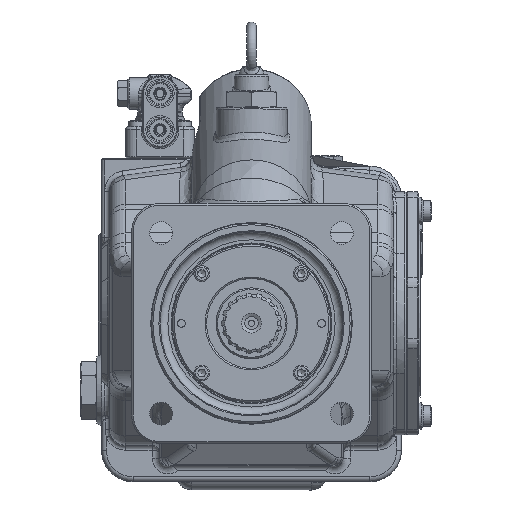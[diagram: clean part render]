
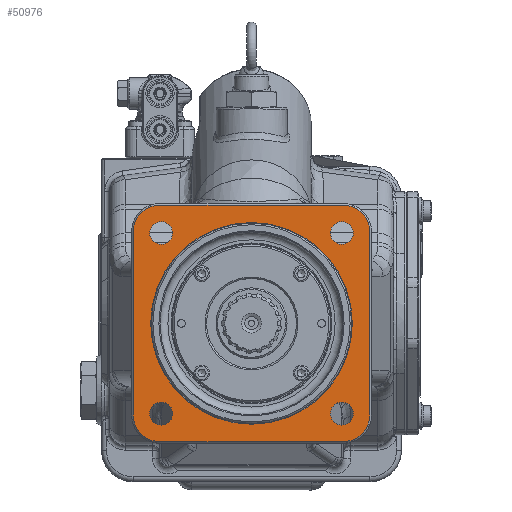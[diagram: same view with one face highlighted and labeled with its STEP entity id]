
A CAD part, top view. The second image highlights one B-rep face of the part: STEP entity #50976.
In plain terms, the highlighted planar face has unit normal (0, 0, 1).
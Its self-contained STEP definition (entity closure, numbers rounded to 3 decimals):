
#3274=FACE_BOUND('',#10187,.T.);
#3275=FACE_BOUND('',#10188,.T.);
#3276=FACE_BOUND('',#10189,.T.);
#3277=FACE_BOUND('',#10190,.T.);
#3278=FACE_BOUND('',#10191,.T.);
#4396=PLANE('',#55071);
#6970=FACE_OUTER_BOUND('',#10186,.T.);
#10186=EDGE_LOOP('',(#44647,#44648,#44649,#44650,#44651,#44652,#44653,#44654));
#10187=EDGE_LOOP('',(#44655));
#10188=EDGE_LOOP('',(#44656));
#10189=EDGE_LOOP('',(#44657));
#10190=EDGE_LOOP('',(#44658));
#10191=EDGE_LOOP('',(#44659));
#14097=LINE('',#97734,#18054);
#14098=LINE('',#97738,#18055);
#14099=LINE('',#97742,#18056);
#14100=LINE('',#97746,#18057);
#18054=VECTOR('',#66004,10.);
#18055=VECTOR('',#66007,10.);
#18056=VECTOR('',#66010,10.);
#18057=VECTOR('',#66013,10.);
#20305=CIRCLE('',#55064,63.9);
#20311=CIRCLE('',#55072,17.);
#20312=CIRCLE('',#55073,17.);
#20313=CIRCLE('',#55074,17.);
#20314=CIRCLE('',#55075,17.);
#20315=CIRCLE('',#55076,7.25);
#20316=CIRCLE('',#55077,7.25);
#20317=CIRCLE('',#55078,7.25);
#20318=CIRCLE('',#55079,7.25);
#24502=VERTEX_POINT('',#97718);
#24507=VERTEX_POINT('',#97732);
#24508=VERTEX_POINT('',#97733);
#24509=VERTEX_POINT('',#97735);
#24510=VERTEX_POINT('',#97737);
#24511=VERTEX_POINT('',#97739);
#24512=VERTEX_POINT('',#97741);
#24513=VERTEX_POINT('',#97743);
#24514=VERTEX_POINT('',#97745);
#24515=VERTEX_POINT('',#97748);
#24516=VERTEX_POINT('',#97750);
#24517=VERTEX_POINT('',#97752);
#24518=VERTEX_POINT('',#97754);
#31366=EDGE_CURVE('',#24502,#24502,#20305,.T.);
#31373=EDGE_CURVE('',#24507,#24508,#14097,.T.);
#31374=EDGE_CURVE('',#24509,#24507,#20311,.T.);
#31375=EDGE_CURVE('',#24510,#24509,#14098,.T.);
#31376=EDGE_CURVE('',#24511,#24510,#20312,.T.);
#31377=EDGE_CURVE('',#24512,#24511,#14099,.T.);
#31378=EDGE_CURVE('',#24513,#24512,#20313,.T.);
#31379=EDGE_CURVE('',#24514,#24513,#14100,.T.);
#31380=EDGE_CURVE('',#24508,#24514,#20314,.T.);
#31381=EDGE_CURVE('',#24515,#24515,#20315,.T.);
#31382=EDGE_CURVE('',#24516,#24516,#20316,.T.);
#31383=EDGE_CURVE('',#24517,#24517,#20317,.T.);
#31384=EDGE_CURVE('',#24518,#24518,#20318,.T.);
#44647=ORIENTED_EDGE('',*,*,#31373,.F.);
#44648=ORIENTED_EDGE('',*,*,#31374,.F.);
#44649=ORIENTED_EDGE('',*,*,#31375,.F.);
#44650=ORIENTED_EDGE('',*,*,#31376,.F.);
#44651=ORIENTED_EDGE('',*,*,#31377,.F.);
#44652=ORIENTED_EDGE('',*,*,#31378,.F.);
#44653=ORIENTED_EDGE('',*,*,#31379,.F.);
#44654=ORIENTED_EDGE('',*,*,#31380,.F.);
#44655=ORIENTED_EDGE('',*,*,#31381,.T.);
#44656=ORIENTED_EDGE('',*,*,#31382,.T.);
#44657=ORIENTED_EDGE('',*,*,#31383,.T.);
#44658=ORIENTED_EDGE('',*,*,#31384,.T.);
#44659=ORIENTED_EDGE('',*,*,#31366,.F.);
#50976=ADVANCED_FACE('',(#6970,#3274,#3275,#3276,#3277,#3278),#4396,.F.);
#55064=AXIS2_PLACEMENT_3D('',#97719,#65987,#65988);
#55071=AXIS2_PLACEMENT_3D('',#97731,#66002,#66003);
#55072=AXIS2_PLACEMENT_3D('',#97736,#66005,#66006);
#55073=AXIS2_PLACEMENT_3D('',#97740,#66008,#66009);
#55074=AXIS2_PLACEMENT_3D('',#97744,#66011,#66012);
#55075=AXIS2_PLACEMENT_3D('',#97747,#66014,#66015);
#55076=AXIS2_PLACEMENT_3D('',#97749,#66016,#66017);
#55077=AXIS2_PLACEMENT_3D('',#97751,#66018,#66019);
#55078=AXIS2_PLACEMENT_3D('',#97753,#66020,#66021);
#55079=AXIS2_PLACEMENT_3D('',#97755,#66022,#66023);
#65987=DIRECTION('center_axis',(0.,0.,
1.));
#65988=DIRECTION('ref_axis',(0.,-1.,0.));
#66002=DIRECTION('center_axis',(0.,0.,
-1.));
#66003=DIRECTION('ref_axis',(0.,1.,0.));
#66004=DIRECTION('',(1.,0.,0.));
#66005=DIRECTION('center_axis',(0.,0.,
-1.));
#66006=DIRECTION('ref_axis',(-1.,0.,0.));
#66007=DIRECTION('',(0.,1.,0.));
#66008=DIRECTION('center_axis',(0.,0.,
-1.));
#66009=DIRECTION('ref_axis',(0.,-1.,0.));
#66010=DIRECTION('',(-1.,0.,0.));
#66011=DIRECTION('center_axis',(0.,0.,
-1.));
#66012=DIRECTION('ref_axis',(0.,-1.,0.));
#66013=DIRECTION('',(0.,-1.,0.));
#66014=DIRECTION('center_axis',(0.,0.,
-1.));
#66015=DIRECTION('ref_axis',(1.,0.,0.));
#66016=DIRECTION('center_axis',(0.,0.,
-1.));
#66017=DIRECTION('ref_axis',(1.,0.,0.));
#66018=DIRECTION('center_axis',(0.,0.,
-1.));
#66019=DIRECTION('ref_axis',(1.,0.,0.));
#66020=DIRECTION('center_axis',(0.,0.,
-1.));
#66021=DIRECTION('ref_axis',(1.,0.,0.));
#66022=DIRECTION('center_axis',(0.,0.,
-1.));
#66023=DIRECTION('ref_axis',(1.,0.,0.));
#97718=CARTESIAN_POINT('',(-10.487,61.156,109.985));
#97719=CARTESIAN_POINT('Origin',(-10.487,-2.744,109.985));
#97731=CARTESIAN_POINT('Origin',(-10.487,121.099,109.985));
#97732=CARTESIAN_POINT('',(-68.487,72.256,109.985));
#97733=CARTESIAN_POINT('',(47.513,72.256,109.985));
#97734=CARTESIAN_POINT('',(-19.619,72.256,109.985));
#97735=CARTESIAN_POINT('',(-85.487,55.256,109.985));
#97736=CARTESIAN_POINT('Origin',(-68.487,55.256,109.985));
#97737=CARTESIAN_POINT('',(-85.487,-60.744,109.985));
#97738=CARTESIAN_POINT('',(-85.487,73.677,109.985));
#97739=CARTESIAN_POINT('',(-68.487,-77.744,109.985));
#97740=CARTESIAN_POINT('Origin',(-68.487,-60.744,109.985));
#97741=CARTESIAN_POINT('',(47.513,-77.744,109.985));
#97742=CARTESIAN_POINT('',(-34.119,-77.744,109.985));
#97743=CARTESIAN_POINT('',(64.513,-60.744,109.985));
#97744=CARTESIAN_POINT('Origin',(47.513,-60.744,109.985));
#97745=CARTESIAN_POINT('',(64.513,55.256,109.985));
#97746=CARTESIAN_POINT('',(64.513,73.677,109.985));
#97747=CARTESIAN_POINT('Origin',(47.513,55.256,109.985));
#97748=CARTESIAN_POINT('',(-74.987,-59.994,109.985));
#97749=CARTESIAN_POINT('Origin',(-67.737,-59.994,109.985));
#97750=CARTESIAN_POINT('',(39.513,-59.994,109.985));
#97751=CARTESIAN_POINT('Origin',(46.763,-59.994,109.985));
#97752=CARTESIAN_POINT('',(-74.987,54.506,109.985));
#97753=CARTESIAN_POINT('Origin',(-67.737,54.506,109.985));
#97754=CARTESIAN_POINT('',(39.513,54.506,109.985));
#97755=CARTESIAN_POINT('Origin',(46.763,54.506,109.985));
